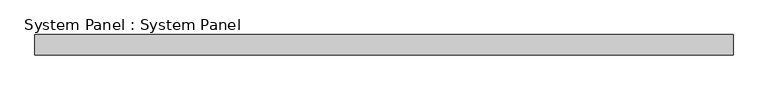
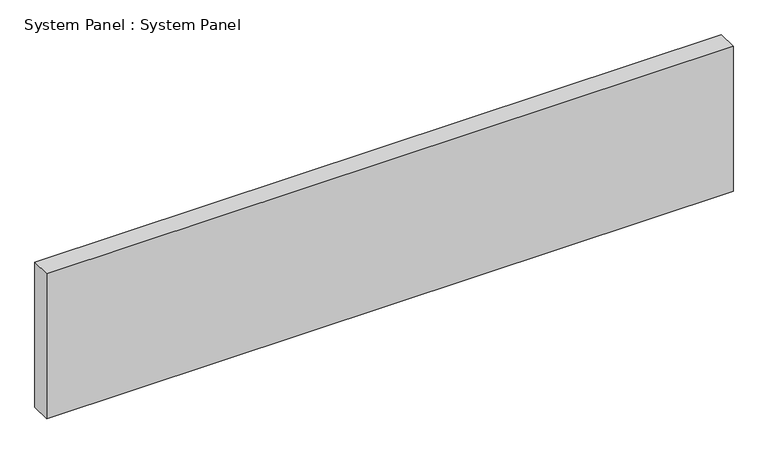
"""IFC4 building model written with IfcOpenShell, lengths in millimetres: plate geometry, System Panel : System Panel."""

from ifc_helpers import new_model, si_unit, origin, origin_with_axes, place, context, project, spatial, polyline, outline, extrude, source, transform, mapped, element, save


def system_panel_system_panel_bb7de7ef(model_context):
    return source(origin(), model_context, "Body", "SweptSolid", [
        extrude(outline(polyline([(1735.6576526, -50.8), (-1735.6576526, -50.8), (-1735.6576526, 50.8), (1735.6576526, 50.8), (1735.6576526, -50.8)])), origin_with_axes(), (0.0, 0.0, 1.0), 774.7),
    ])


if __name__ == "__main__":
    model = new_model("IFC4")
    model_context = context("Model", 3, world=origin())
    ifc_project = project(units=[si_unit("LENGTHUNIT", "METRE", prefix="MILLI")], contexts=[model_context])
    site = spatial("IfcSite", under=ifc_project)
    building = spatial("IfcBuilding", under=site)
    placement = place(None, origin())
    system_panel_system_panel_shape = system_panel_system_panel_bb7de7ef(model_context)
    element("IfcPlate", 1, ObjectType="System Panel : System Panel", at=placement, inside=building, context=model_context, shape_type="MappedRepresentation", body=[
        mapped(system_panel_system_panel_shape, transform((0.0, 0.0, 0.0), x_axis=(1.0, 0.0, 0.0), y_axis=(0.0, 1.0, 0.0), z_axis=(0.0, 0.0, 1.0))),
    ])
    save(model, "model.ifc")
